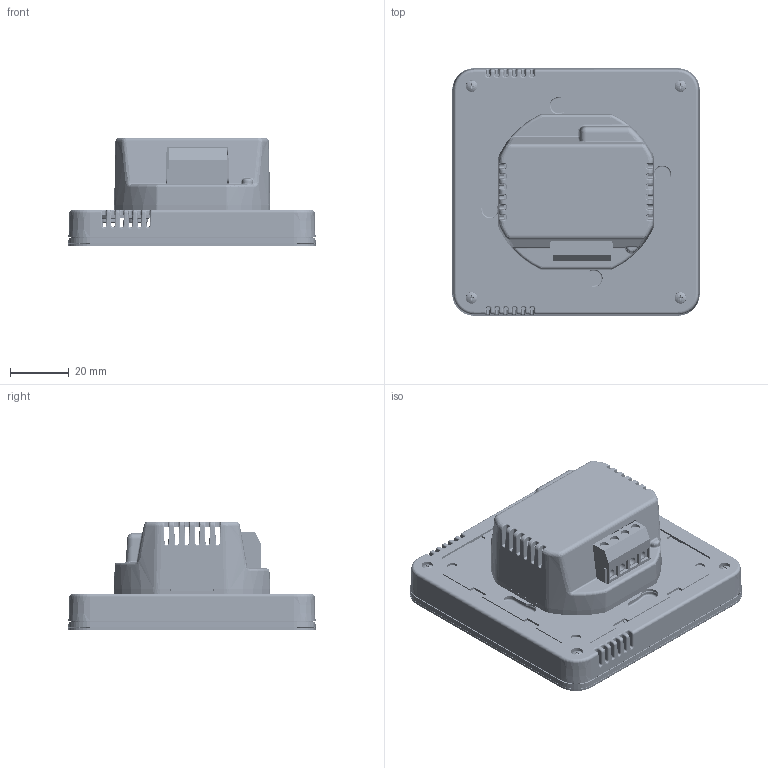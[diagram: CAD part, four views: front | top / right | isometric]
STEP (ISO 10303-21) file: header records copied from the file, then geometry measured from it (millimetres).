
FILE_DESCRIPTION(/* description */ ('','CAx-IF Rec.Pracs.---Representation and Presentation of Product Manufacturing Information (PMI)---4.0---2014-10-13'),/* implementation_level */ '2;1');
FILE_NAME(/* name */ 'WS-04.step',/* time_stamp */ '2025-02-21T13:03:59+01:00',/* author */ (''),/* organization */ (''),/* preprocessor_version */ 'ST-DEVELOPER v20',/* originating_system */ 'Autodesk Translation Framework v13.20.0.188',/* authorisation */ '');
FILE_SCHEMA (('AP242_MANAGED_MODEL_BASED_3D_ENGINEERING_MIM_LF { 1 0 10303 442 1 1 4 }'));
Products named in the file (16): przełącznik szklany; PŁYTKA _dotyk_podswietlana; szkło; switch kątowy cienk2i; tył klawisz; OP-1398_C; Blacha1.2; OP-1399_A; łączka 5; DIN ISO 7049 - C-H ST2.2 x 9.5 - C - H; LOGO; OP-1020_F; ws-04 farba ok; Wkręt do tworzyw 2,2x6; PODSWIETLENIE; OP-1020_D
Assembly tree (25 placements, depth 3):
  przełącznik szklany
    PŁYTKA _dotyk_podswietlana
    szkło
    switch kątowy cienk2i
    tył klawisz
      OP-1398_C
      łączka 5  x4
      Blacha1.2
      OP-1399_A
      DIN ISO 7049 - C-H ST2.2 x 9.5 - C - H  x2
    Wkręt do tworzyw 2,2x6  x4
    LOGO
    PODSWIETLENIE  x4
    OP-1020_F
    ws-04 farba ok
    OP-1020_D
Bounding box: 84.58 x 84.58 x 37.22 mm (x, y, z)
Volume: 63482.9 mm3; surface area: 104155.5 mm2
Topology: 45 solids, 45 shells, 10439 faces, 29914 edges, 19668 vertices
Faces by surface type: cone 6580, plane 1968, bspline 877, cylinder 733, torus 250, sphere 31
Full cylindrical faces by diameter (mm): 0.1 x1, 0.8 x2, 0.9 x5, 1 x6, 1.43 x4, 2 x7, 2.2 x6, 2.3 x4, 2.4 x2, 2.702 x4, 3 x5, 3.5 x4, 4 x4, 4.6 x2, 6 x1
Entity records: 176646 total; most frequent: CARTESIAN_POINT 55293, ORIENTED_EDGE 24624, DIRECTION 23334, EDGE_CURVE 12312, VERTEX_POINT 9007, AXIS2_PLACEMENT_3D 8252, EDGE_LOOP 6919, LINE 6830
